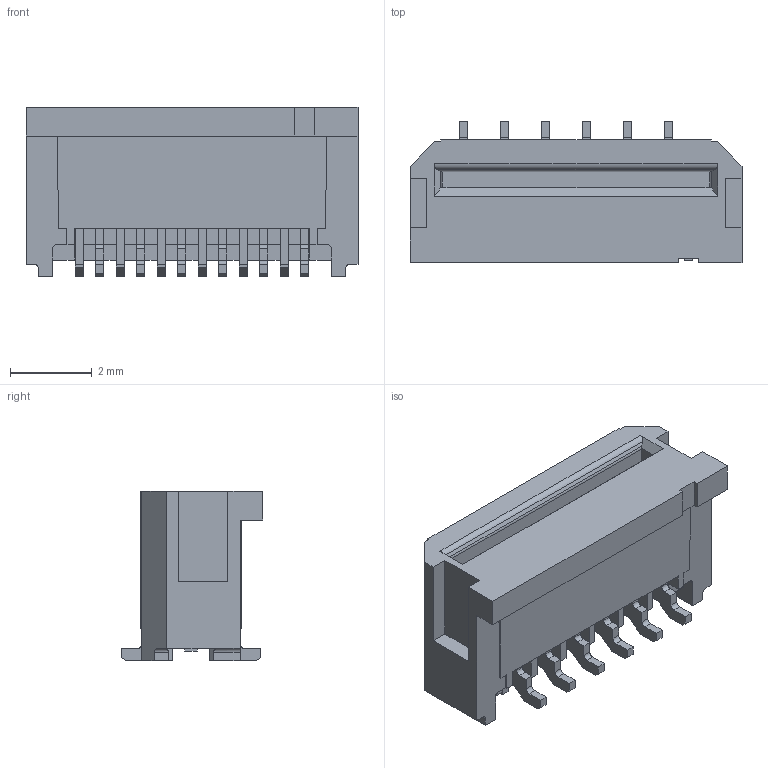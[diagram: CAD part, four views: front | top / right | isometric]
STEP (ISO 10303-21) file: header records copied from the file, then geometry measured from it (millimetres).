
FILE_DESCRIPTION(('CATIA V5 STEP Exchange'),'2;1');
FILE_NAME('C:\Users\user\Desktop\作業中 0601分\差し替えデータ\00_6244_012_010_xxx_+.stp','2015-06-02T06:13:13+00:00',('none'),('none'),'CATIA Version 5 Release 19 SP 9 (IN-10)','CATIA V5 STEP AP214','none');
FILE_SCHEMA(('AUTOMOTIVE_DESIGN { 1 0 10303 214 1 1 1 1 }'));
Length unit declared in the file: millimetre
Products named in the file (1): Part1
Bounding box: 8.1 x 3.45 x 4.13 mm (x, y, z)
Volume: 63.2 mm3; surface area: 208.3 mm2
Topology: 1 solids, 1 shells, 393 faces, 1271 edges, 881 vertices
Faces by surface type: plane 359, cylinder 34
Entity records: 12626 total; most frequent: ORIENTED_EDGE 2542, CARTESIAN_POINT 2393, DIRECTION 1529, EDGE_CURVE 1271, VECTOR 1189, LINE 1189, VERTEX_POINT 881, EDGE_LOOP 394
